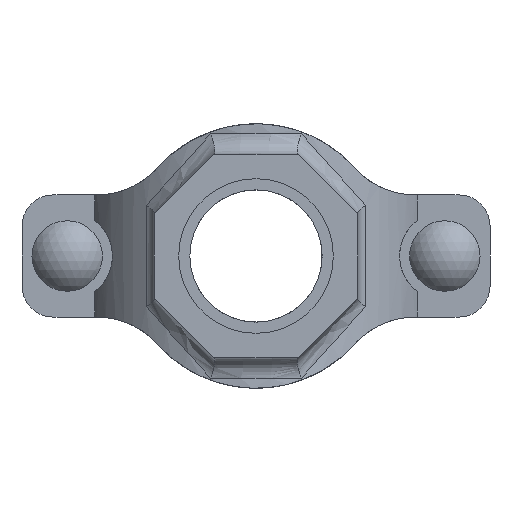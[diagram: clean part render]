
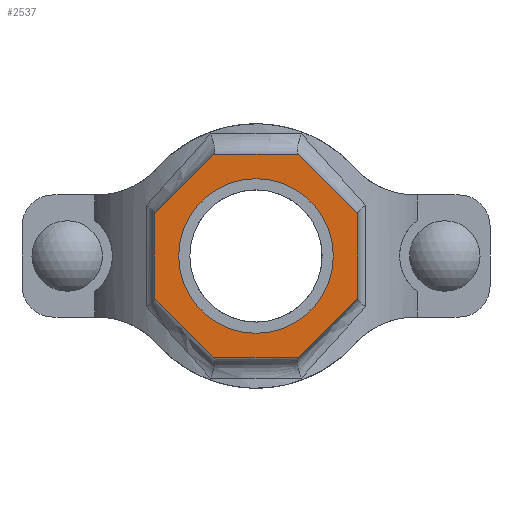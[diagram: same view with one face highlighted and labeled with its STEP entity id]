
A CAD part, front view. The second image highlights one B-rep face of the part: STEP entity #2537.
In plain terms, the highlighted planar face has unit normal (0, -1, 0) as drawn and (0, 1, 0) by its records, which use the part's own axes.
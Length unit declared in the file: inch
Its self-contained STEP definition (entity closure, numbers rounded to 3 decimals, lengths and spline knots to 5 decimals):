
#186=FACE_BOUND('',#457,.T.);
#305=FACE_OUTER_BOUND('',#456,.T.);
#456=EDGE_LOOP('',(#2128,#2129,#2130,#2131,#2132,#2133,#2134,#2135));
#457=EDGE_LOOP('',(#2136));
#594=LINE('',#4663,#780);
#597=LINE('',#4668,#783);
#599=LINE('',#4672,#785);
#601=LINE('',#4676,#787);
#637=LINE('',#5117,#823);
#639=LINE('',#5121,#825);
#641=LINE('',#5125,#827);
#643=LINE('',#5128,#829);
#780=VECTOR('',#3278,0.3937);
#783=VECTOR('',#3283,0.3937);
#785=VECTOR('',#3287,0.3937);
#787=VECTOR('',#3291,0.3937);
#823=VECTOR('',#3419,0.3937);
#825=VECTOR('',#3423,0.3937);
#827=VECTOR('',#3427,0.3937);
#829=VECTOR('',#3431,0.3937);
#919=CIRCLE('',#2802,0.95);
#1097=VERTEX_POINT('',#4660);
#1098=VERTEX_POINT('',#4662);
#1099=VERTEX_POINT('',#4666);
#1100=VERTEX_POINT('',#4670);
#1101=VERTEX_POINT('',#4674);
#1136=VERTEX_POINT('',#4954);
#1158=VERTEX_POINT('',#5116);
#1159=VERTEX_POINT('',#5120);
#1160=VERTEX_POINT('',#5124);
#1408=EDGE_CURVE('',#1098,#1097,#594,.T.);
#1411=EDGE_CURVE('',#1097,#1099,#597,.T.);
#1413=EDGE_CURVE('',#1099,#1100,#599,.T.);
#1415=EDGE_CURVE('',#1100,#1101,#601,.T.);
#1461=EDGE_CURVE('',#1136,#1136,#919,.T.);
#1491=EDGE_CURVE('',#1158,#1098,#637,.T.);
#1493=EDGE_CURVE('',#1159,#1158,#639,.T.);
#1495=EDGE_CURVE('',#1160,#1159,#641,.T.);
#1497=EDGE_CURVE('',#1101,#1160,#643,.T.);
#2128=ORIENTED_EDGE('',*,*,#1497,.T.);
#2129=ORIENTED_EDGE('',*,*,#1495,.T.);
#2130=ORIENTED_EDGE('',*,*,#1493,.T.);
#2131=ORIENTED_EDGE('',*,*,#1491,.T.);
#2132=ORIENTED_EDGE('',*,*,#1408,.T.);
#2133=ORIENTED_EDGE('',*,*,#1411,.T.);
#2134=ORIENTED_EDGE('',*,*,#1413,.T.);
#2135=ORIENTED_EDGE('',*,*,#1415,.T.);
#2136=ORIENTED_EDGE('',*,*,#1461,.T.);
#2278=PLANE('',#2823);
#2537=ADVANCED_FACE('',(#305,#186),#2278,.T.);
#2802=AXIS2_PLACEMENT_3D('',#4955,#3369,#3370);
#2823=AXIS2_PLACEMENT_3D('',#5129,#3432,#3433);
#3278=DIRECTION('',(0.,0.,1.));
#3283=DIRECTION('',(0.707,0.,0.707));
#3287=DIRECTION('',(1.,0.,0.));
#3291=DIRECTION('',(0.707,0.,-0.707));
#3369=DIRECTION('center_axis',(0.,-1.,0.));
#3370=DIRECTION('ref_axis',(-1.,0.,0.));
#3419=DIRECTION('',(-0.707,0.,0.707));
#3423=DIRECTION('',(-1.,0.,0.));
#3427=DIRECTION('',(-0.707,0.,-0.707));
#3431=DIRECTION('',(0.,0.,-1.));
#3432=DIRECTION('center_axis',(0.,1.,0.));
#3433=DIRECTION('ref_axis',(0.,0.,1.));
#4660=CARTESIAN_POINT('',(-1.25,3.5,0.51777));
#4662=CARTESIAN_POINT('',(-1.25,3.5,-0.51777));
#4663=CARTESIAN_POINT('',(-1.25,3.5,0.51777));
#4666=CARTESIAN_POINT('',(-0.51777,3.5,1.25));
#4668=CARTESIAN_POINT('',(-0.51777,3.5,1.25));
#4670=CARTESIAN_POINT('',(0.51777,3.5,1.25));
#4672=CARTESIAN_POINT('',(0.51777,3.5,1.25));
#4674=CARTESIAN_POINT('',(1.25,3.5,0.51777));
#4676=CARTESIAN_POINT('',(1.25,3.5,0.51777));
#4954=CARTESIAN_POINT('',(0.95,3.5,0.));
#4955=CARTESIAN_POINT('Origin',(0.,3.5,0.));
#5116=CARTESIAN_POINT('',(-0.51777,3.5,-1.25));
#5117=CARTESIAN_POINT('',(-1.25,3.5,-0.51777));
#5120=CARTESIAN_POINT('',(0.51777,3.5,-1.25));
#5121=CARTESIAN_POINT('',(-0.51777,3.5,-1.25));
#5124=CARTESIAN_POINT('',(1.25,3.5,-0.51777));
#5125=CARTESIAN_POINT('',(0.51777,3.5,-1.25));
#5128=CARTESIAN_POINT('',(1.25,3.5,-0.51777));
#5129=CARTESIAN_POINT('Origin',(0.,3.5,0.));
